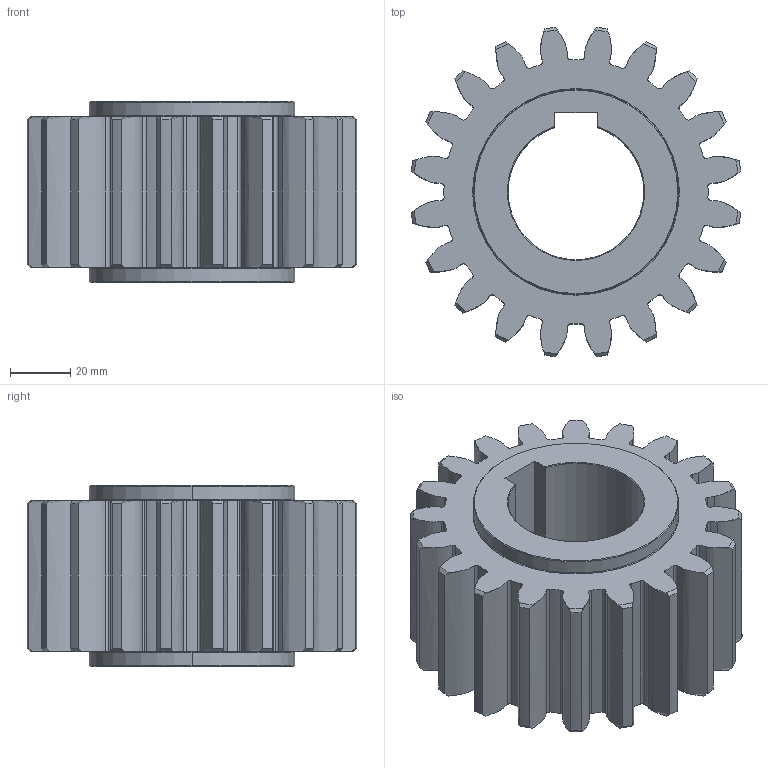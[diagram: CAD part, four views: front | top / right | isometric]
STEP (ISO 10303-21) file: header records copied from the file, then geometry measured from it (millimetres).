
FILE_DESCRIPTION (( 'STEP AP214' ), '1' );
FILE_NAME ('1SG__S050020S.STEP', '2021-08-03T07:52:15', ( '' ), ( '' ), 'SwSTEP 2.0', 'SolidWorks 2021', '' );
FILE_SCHEMA (( 'AUTOMOTIVE_DESIGN' ));
Length unit declared in the file: millimetre
Products named in the file (1): 1SG__S050020S
Bounding box: 109.14 x 109.14 x 60 mm (x, y, z)
Volume: 320696.2 mm3; surface area: 55047.1 mm2
Topology: 1 solids, 1 shells, 218 faces, 670 edges, 456 vertices
Faces by surface type: cylinder 77, bspline 60, cone 50, plane 27, torus 4
Entity records: 13752 total; most frequent: CARTESIAN_POINT 7957, ORIENTED_EDGE 1340, DIRECTION 1076, EDGE_CURVE 670, VERTEX_POINT 456, AXIS2_PLACEMENT_3D 411, VECTOR 254, LINE 254
